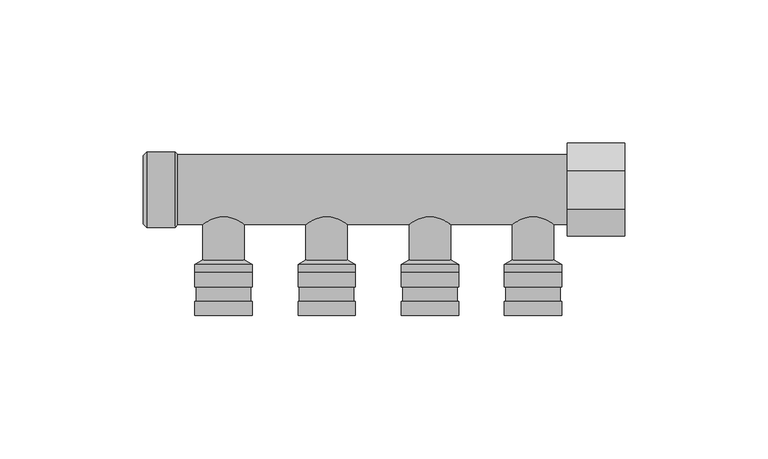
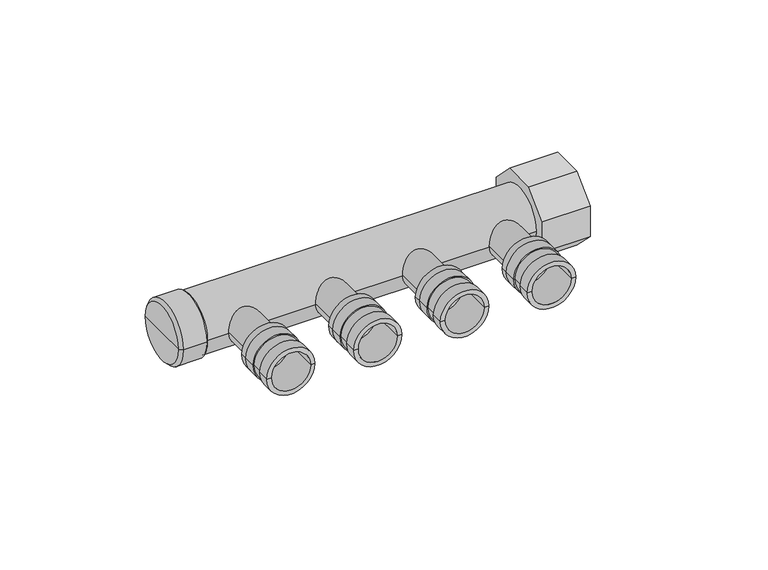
"""IFC4 building model written with IfcOpenShell, lengths in millimetres: pipe fitting geometry, Astra - Distribuidor Aberto - DSL : Astra - Distribuidor Aberto - DSL."""

from ifc_helpers import new_model, si_unit, frame, origin, place, context, project, spatial, polyline, circle_curve, source, transform, mapped, element, save
from ifc_brep_helpers import plane_surface, cylinder_surface, revolved_surface, advanced_brep


def pipe_fitting_5bf43b76(model_context):
    return source(origin(), model_context, "Body", "AdvancedBrep", [
        advanced_brep(
        [(43.85, -29.0, 0.0), (60.15, -29.0, 0.0), (62.0, -29.0, 0.0), (42.0, -29.0, 0.0), (43.85, -44.0, 0.0), (60.15, -44.0, 0.0), (42.0, -44.0, 0.0), (62.0, -44.0, 0.0), (62.0, -34.0, 0.0), (42.0, -34.0, 0.0), (42.0, -39.0, 0.0), (62.0, -39.0, 0.0), (61.5, -34.0, 0.0), (42.5, -34.0, 0.0), (61.5, -39.0, 0.0), (42.5, -39.0, 0.0)],
        [
            (0, 1, circle_curve(frame((52.0, -29.0, 0.0), z_axis=(0.0, -1.0, 0.0), x_axis=(1.0000000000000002, 0.0, 0.0)), 8.15)),
            (1, 2),
            (2, 3, circle_curve(frame((52.0, -29.0, 0.0), z_axis=(0.0, 1.0, 0.0), x_axis=(1.0000000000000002, 0.0, 0.0)), 10.0)),
            (3, 0),
            (1, 0, circle_curve(frame((52.0, -29.0, 0.0), z_axis=(0.0, -1.0, 0.0), x_axis=(1.0000000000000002, 0.0, 0.0)), 8.15)),
            (3, 2, circle_curve(frame((52.0, -29.0, 0.0), z_axis=(0.0, 1.0, 0.0), x_axis=(1.0000000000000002, 0.0, 0.0)), 10.0)),
            (0, 4),
            (4, 5, circle_curve(frame((52.0, -44.0, 0.0), z_axis=(0.0, -1.0, 0.0), x_axis=(1.0000000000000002, 0.0, 0.0)), 8.15)),
            (5, 1),
            (5, 4, circle_curve(frame((52.0, -44.0, 0.0), z_axis=(0.0, -1.0, 0.0), x_axis=(1.0000000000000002, 0.0, 0.0)), 8.15)),
            (4, 6),
            (6, 7, circle_curve(frame((52.0, -44.0, 0.0), z_axis=(0.0, -1.0, 0.0), x_axis=(1.0000000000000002, 0.0, 0.0)), 10.0)),
            (7, 5),
            (7, 6, circle_curve(frame((52.0, -44.0, 0.0), z_axis=(0.0, -1.0, 0.0), x_axis=(1.0000000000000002, 0.0, 0.0)), 10.0)),
            (2, 8),
            (8, 9, circle_curve(frame((52.0, -34.0, 0.0), z_axis=(0.0, 1.0, 0.0), x_axis=(1.0000000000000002, 0.0, 0.0)), 10.0)),
            (9, 3),
            (6, 10),
            (10, 11, circle_curve(frame((52.0, -39.0, 0.0), z_axis=(0.0, -1.0, 0.0), x_axis=(1.0000000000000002, 0.0, 0.0)), 10.0)),
            (11, 7),
            (9, 8, circle_curve(frame((52.0, -34.0, 0.0), z_axis=(0.0, 1.0, 0.0), x_axis=(1.0000000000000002, 0.0, 0.0)), 10.0)),
            (11, 10, circle_curve(frame((52.0, -39.0, 0.0), z_axis=(0.0, -1.0, 0.0), x_axis=(1.0000000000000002, 0.0, 0.0)), 10.0)),
            (12, 13, circle_curve(frame((52.0, -34.0, 0.0), z_axis=(0.0, 1.0, 0.0), x_axis=(1.0000000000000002, 0.0, 0.0)), 9.5)),
            (13, 9),
            (8, 12),
            (13, 12, circle_curve(frame((52.0, -34.0, 0.0), z_axis=(0.0, 1.0, 0.0), x_axis=(1.0000000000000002, 0.0, 0.0)), 9.5)),
            (12, 14),
            (14, 15, circle_curve(frame((52.0, -39.0, 0.0), z_axis=(0.0, 1.0, 0.0), x_axis=(1.0000000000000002, 0.0, 0.0)), 9.5)),
            (15, 13),
            (15, 14, circle_curve(frame((52.0, -39.0, 0.0), z_axis=(0.0, 1.0, 0.0), x_axis=(1.0000000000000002, 0.0, 0.0)), 9.5)),
            (14, 11),
            (10, 15),
        ],
        [
            plane_surface(frame((52.0, -29.0, 0.0), z_axis=(0.0, 1.0, 0.0), x_axis=(1.0, 0.0, 0.0))),
            revolved_surface(polyline([(60.150000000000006, -29.0, 0.0), (60.150000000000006, -44.00000000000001, 0.0)]), (52.0, -29.0, 0.0), (0.0, 1.0000000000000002, 0.0)),
            plane_surface(frame((52.0, -44.0, 0.0), z_axis=(0.0, -1.0, 0.0), x_axis=(1.0, 0.0, 0.0))),
            cylinder_surface(frame((52.0, -29.0, 0.0), z_axis=(0.0, 1.0000000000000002, 0.0), x_axis=(1.0000000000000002, 0.0, 0.0)), 10.0),
            plane_surface(frame((52.0, -34.0, 0.0), z_axis=(0.0, -1.0, 0.0), x_axis=(1.0, 0.0, 0.0))),
            cylinder_surface(frame((52.0, -29.0, 0.0), z_axis=(0.0, 1.0000000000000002, 0.0), x_axis=(1.0000000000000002, 0.0, 0.0)), 9.5),
            plane_surface(frame((52.0, -39.0, 0.0), z_axis=(0.0, 1.0, 0.0), x_axis=(1.0, 0.0, 0.0))),
        ],
        [
            (0, [[1, 2, 3, 4]]),
            (0, [[-2, 5, -4, 6]]),
            (1, [[-1, 7, 8, 9]]),
            (1, [[-5, -9, 10, -7]]),
            (2, [[-8, 11, 12, 13]]),
            (2, [[-10, -13, 14, -11]]),
            (3, [[-3, 15, 16, 17]]),
            (3, [[-12, 18, 19, 20]]),
            (3, [[-6, -17, 21, -15]]),
            (3, [[-14, -20, 22, -18]]),
            (4, [[23, 24, -16, 25]]),
            (4, [[26, -25, -21, -24]]),
            (5, [[-23, 27, 28, 29]]),
            (5, [[-26, -29, 30, -27]]),
            (6, [[-28, 31, -19, 32]]),
            (6, [[-30, -32, -22, -31]]),
        ],
    ),
        advanced_brep(
        [(7.85, -29.0, 0.0), (24.15, -29.0, 0.0), (26.0, -29.0, 0.0), (6.0, -29.0, 0.0), (7.85, -44.0, 0.0), (24.15, -44.0, 0.0), (6.0, -44.0, 0.0), (26.0, -44.0, 0.0), (26.0, -34.0, 0.0), (6.0, -34.0, 0.0), (6.0, -39.0, 0.0), (26.0, -39.0, 0.0), (25.5, -34.0, 0.0), (6.5, -34.0, 0.0), (25.5, -39.0, 0.0), (6.5, -39.0, 0.0)],
        [
            (0, 1, circle_curve(frame((16.0, -29.0, 0.0), z_axis=(0.0, -1.0, 0.0), x_axis=(1.0000000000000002, 0.0, 0.0)), 8.15)),
            (1, 2),
            (2, 3, circle_curve(frame((16.0, -29.0, 0.0), z_axis=(0.0, 1.0, 0.0), x_axis=(1.0000000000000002, 0.0, 0.0)), 10.0)),
            (3, 0),
            (1, 0, circle_curve(frame((16.0, -29.0, 0.0), z_axis=(0.0, -1.0, 0.0), x_axis=(1.0000000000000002, 0.0, 0.0)), 8.15)),
            (3, 2, circle_curve(frame((16.0, -29.0, 0.0), z_axis=(0.0, 1.0, 0.0), x_axis=(1.0000000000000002, 0.0, 0.0)), 10.0)),
            (0, 4),
            (4, 5, circle_curve(frame((16.0, -44.0, 0.0), z_axis=(0.0, -1.0, 0.0), x_axis=(1.0000000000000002, 0.0, 0.0)), 8.15)),
            (5, 1),
            (5, 4, circle_curve(frame((16.0, -44.0, 0.0), z_axis=(0.0, -1.0, 0.0), x_axis=(1.0000000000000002, 0.0, 0.0)), 8.15)),
            (4, 6),
            (6, 7, circle_curve(frame((16.0, -44.0, 0.0), z_axis=(0.0, -1.0, 0.0), x_axis=(1.0000000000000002, 0.0, 0.0)), 10.0)),
            (7, 5),
            (7, 6, circle_curve(frame((16.0, -44.0, 0.0), z_axis=(0.0, -1.0, 0.0), x_axis=(1.0000000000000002, 0.0, 0.0)), 10.0)),
            (2, 8),
            (8, 9, circle_curve(frame((16.0, -34.0, 0.0), z_axis=(0.0, 1.0, 0.0), x_axis=(1.0000000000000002, 0.0, 0.0)), 10.0)),
            (9, 3),
            (6, 10),
            (10, 11, circle_curve(frame((16.0, -39.0, 0.0), z_axis=(0.0, -1.0, 0.0), x_axis=(1.0000000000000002, 0.0, 0.0)), 10.0)),
            (11, 7),
            (9, 8, circle_curve(frame((16.0, -34.0, 0.0), z_axis=(0.0, 1.0, 0.0), x_axis=(1.0000000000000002, 0.0, 0.0)), 10.0)),
            (11, 10, circle_curve(frame((16.0, -39.0, 0.0), z_axis=(0.0, -1.0, 0.0), x_axis=(1.0000000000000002, 0.0, 0.0)), 10.0)),
            (12, 13, circle_curve(frame((16.0, -34.0, 0.0), z_axis=(0.0, 1.0, 0.0), x_axis=(1.0000000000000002, 0.0, 0.0)), 9.5)),
            (13, 9),
            (8, 12),
            (13, 12, circle_curve(frame((16.0, -34.0, 0.0), z_axis=(0.0, 1.0, 0.0), x_axis=(1.0000000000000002, 0.0, 0.0)), 9.5)),
            (12, 14),
            (14, 15, circle_curve(frame((16.0, -39.0, 0.0), z_axis=(0.0, 1.0, 0.0), x_axis=(1.0000000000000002, 0.0, 0.0)), 9.5)),
            (15, 13),
            (15, 14, circle_curve(frame((16.0, -39.0, 0.0), z_axis=(0.0, 1.0, 0.0), x_axis=(1.0000000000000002, 0.0, 0.0)), 9.5)),
            (14, 11),
            (10, 15),
        ],
        [
            plane_surface(frame((16.0, -29.0, 0.0), z_axis=(0.0, 1.0, 0.0), x_axis=(1.0, 0.0, 0.0))),
            revolved_surface(polyline([(24.150000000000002, -29.0, 0.0), (24.150000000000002, -44.00000000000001, 0.0)]), (16.0, -29.0, 0.0), (0.0, 1.0000000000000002, 0.0)),
            plane_surface(frame((16.0, -44.0, 0.0), z_axis=(0.0, -1.0, 0.0), x_axis=(1.0, 0.0, 0.0))),
            cylinder_surface(frame((16.0, -29.0, 0.0), z_axis=(0.0, 1.0000000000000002, 0.0), x_axis=(1.0000000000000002, 0.0, 0.0)), 10.0),
            plane_surface(frame((16.0, -34.0, 0.0), z_axis=(0.0, -1.0, 0.0), x_axis=(1.0, 0.0, 0.0))),
            cylinder_surface(frame((16.0, -29.0, 0.0), z_axis=(0.0, 1.0000000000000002, 0.0), x_axis=(1.0000000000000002, 0.0, 0.0)), 9.5),
            plane_surface(frame((16.0, -39.0, 0.0), z_axis=(0.0, 1.0, 0.0), x_axis=(1.0, 0.0, 0.0))),
        ],
        [
            (0, [[1, 2, 3, 4]]),
            (0, [[-2, 5, -4, 6]]),
            (1, [[-1, 7, 8, 9]]),
            (1, [[-5, -9, 10, -7]]),
            (2, [[-8, 11, 12, 13]]),
            (2, [[-10, -13, 14, -11]]),
            (3, [[-3, 15, 16, 17]]),
            (3, [[-12, 18, 19, 20]]),
            (3, [[-6, -17, 21, -15]]),
            (3, [[-14, -20, 22, -18]]),
            (4, [[23, 24, -16, 25]]),
            (4, [[26, -25, -21, -24]]),
            (5, [[-23, 27, 28, 29]]),
            (5, [[-26, -29, 30, -27]]),
            (6, [[-28, 31, -19, 32]]),
            (6, [[-30, -32, -22, -31]]),
        ],
    ),
        advanced_brep(
        [(-28.15, -29.0, 0.0), (-11.85, -29.0, 0.0), (-10.0, -29.0, 0.0), (-30.0, -29.0, 0.0), (-28.15, -44.0, 0.0), (-11.85, -44.0, 0.0), (-30.0, -44.0, 0.0), (-10.0, -44.0, 0.0), (-10.0, -34.0, 0.0), (-30.0, -34.0, 0.0), (-30.0, -39.0, 0.0), (-10.0, -39.0, 0.0), (-10.5, -34.0, 0.0), (-29.5, -34.0, 0.0), (-10.5, -39.0, 0.0), (-29.5, -39.0, 0.0)],
        [
            (0, 1, circle_curve(frame((-20.0, -29.0, 0.0), z_axis=(0.0, -1.0, 0.0), x_axis=(1.0000000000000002, 0.0, 0.0)), 8.15)),
            (1, 2),
            (2, 3, circle_curve(frame((-20.0, -29.0, 0.0), z_axis=(0.0, 1.0, 0.0), x_axis=(1.0000000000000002, 0.0, 0.0)), 10.0)),
            (3, 0),
            (1, 0, circle_curve(frame((-20.0, -29.0, 0.0), z_axis=(0.0, -1.0, 0.0), x_axis=(1.0000000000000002, 0.0, 0.0)), 8.15)),
            (3, 2, circle_curve(frame((-20.0, -29.0, 0.0), z_axis=(0.0, 1.0, 0.0), x_axis=(1.0000000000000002, 0.0, 0.0)), 10.0)),
            (0, 4),
            (4, 5, circle_curve(frame((-20.0, -44.0, 0.0), z_axis=(0.0, -1.0, 0.0), x_axis=(1.0000000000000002, 0.0, 0.0)), 8.15)),
            (5, 1),
            (5, 4, circle_curve(frame((-20.0, -44.0, 0.0), z_axis=(0.0, -1.0, 0.0), x_axis=(1.0000000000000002, 0.0, 0.0)), 8.15)),
            (4, 6),
            (6, 7, circle_curve(frame((-20.0, -44.0, 0.0), z_axis=(0.0, -1.0, 0.0), x_axis=(1.0000000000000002, 0.0, 0.0)), 10.0)),
            (7, 5),
            (7, 6, circle_curve(frame((-20.0, -44.0, 0.0), z_axis=(0.0, -1.0, 0.0), x_axis=(1.0000000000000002, 0.0, 0.0)), 10.0)),
            (2, 8),
            (8, 9, circle_curve(frame((-20.0, -34.0, 0.0), z_axis=(0.0, 1.0, 0.0), x_axis=(1.0000000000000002, 0.0, 0.0)), 10.0)),
            (9, 3),
            (6, 10),
            (10, 11, circle_curve(frame((-20.0, -39.0, 0.0), z_axis=(0.0, -1.0, 0.0), x_axis=(1.0000000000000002, 0.0, 0.0)), 10.0)),
            (11, 7),
            (9, 8, circle_curve(frame((-20.0, -34.0, 0.0), z_axis=(0.0, 1.0, 0.0), x_axis=(1.0000000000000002, 0.0, 0.0)), 10.0)),
            (11, 10, circle_curve(frame((-20.0, -39.0, 0.0), z_axis=(0.0, -1.0, 0.0), x_axis=(1.0000000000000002, 0.0, 0.0)), 10.0)),
            (12, 13, circle_curve(frame((-20.0, -34.0, 0.0), z_axis=(0.0, 1.0, 0.0), x_axis=(1.0000000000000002, 0.0, 0.0)), 9.5)),
            (13, 9),
            (8, 12),
            (13, 12, circle_curve(frame((-20.0, -34.0, 0.0), z_axis=(0.0, 1.0, 0.0), x_axis=(1.0000000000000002, 0.0, 0.0)), 9.5)),
            (12, 14),
            (14, 15, circle_curve(frame((-20.0, -39.0, 0.0), z_axis=(0.0, 1.0, 0.0), x_axis=(1.0000000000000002, 0.0, 0.0)), 9.5)),
            (15, 13),
            (15, 14, circle_curve(frame((-20.0, -39.0, 0.0), z_axis=(0.0, 1.0, 0.0), x_axis=(1.0000000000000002, 0.0, 0.0)), 9.5)),
            (14, 11),
            (10, 15),
        ],
        [
            plane_surface(frame((-20.0, -29.0, 0.0), z_axis=(0.0, 1.0, 0.0), x_axis=(1.0, 0.0, 0.0))),
            revolved_surface(polyline([(-11.849999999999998, -29.0, 0.0), (-11.849999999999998, -44.00000000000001, 0.0)]), (-20.0, -29.0, 0.0), (0.0, 1.0000000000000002, 0.0)),
            plane_surface(frame((-20.0, -44.0, 0.0), z_axis=(0.0, -1.0, 0.0), x_axis=(1.0, 0.0, 0.0))),
            cylinder_surface(frame((-20.0, -29.0, 0.0), z_axis=(0.0, 1.0000000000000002, 0.0), x_axis=(1.0000000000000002, 0.0, 0.0)), 10.0),
            plane_surface(frame((-20.0, -34.0, 0.0), z_axis=(0.0, -1.0, 0.0), x_axis=(1.0, 0.0, 0.0))),
            cylinder_surface(frame((-20.0, -29.0, 0.0), z_axis=(0.0, 1.0000000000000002, 0.0), x_axis=(1.0000000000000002, 0.0, 0.0)), 9.5),
            plane_surface(frame((-20.0, -39.0, 0.0), z_axis=(0.0, 1.0, 0.0), x_axis=(1.0, 0.0, 0.0))),
        ],
        [
            (0, [[1, 2, 3, 4]]),
            (0, [[-2, 5, -4, 6]]),
            (1, [[-1, 7, 8, 9]]),
            (1, [[-5, -9, 10, -7]]),
            (2, [[-8, 11, 12, 13]]),
            (2, [[-10, -13, 14, -11]]),
            (3, [[-3, 15, 16, 17]]),
            (3, [[-12, 18, 19, 20]]),
            (3, [[-6, -17, 21, -15]]),
            (3, [[-14, -20, 22, -18]]),
            (4, [[23, 24, -16, 25]]),
            (4, [[26, -25, -21, -24]]),
            (5, [[-23, 27, 28, 29]]),
            (5, [[-26, -29, 30, -27]]),
            (6, [[-28, 31, -19, 32]]),
            (6, [[-30, -32, -22, -31]]),
        ],
    ),
        advanced_brep(
        [(-64.15, -29.0, 0.0), (-47.85, -29.0, 0.0), (-46.0, -29.0, 0.0), (-66.0, -29.0, 0.0), (-64.15, -44.0, 0.0), (-47.85, -44.0, 0.0), (-66.0, -44.0, 0.0), (-46.0, -44.0, 0.0), (-46.0, -34.0, 0.0), (-66.0, -34.0, 0.0), (-66.0, -39.0, 0.0), (-46.0, -39.0, 0.0), (-46.5, -34.0, 0.0), (-65.5, -34.0, 0.0), (-46.5, -39.0, 0.0), (-65.5, -39.0, 0.0)],
        [
            (0, 1, circle_curve(frame((-56.0, -29.0, 0.0), z_axis=(0.0, -1.0, 0.0), x_axis=(1.0000000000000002, 0.0, 0.0)), 8.15)),
            (1, 2),
            (2, 3, circle_curve(frame((-56.0, -29.0, 0.0), z_axis=(0.0, 1.0, 0.0), x_axis=(1.0000000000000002, 0.0, 0.0)), 10.0)),
            (3, 0),
            (1, 0, circle_curve(frame((-56.0, -29.0, 0.0), z_axis=(0.0, -1.0, 0.0), x_axis=(1.0000000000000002, 0.0, 0.0)), 8.15)),
            (3, 2, circle_curve(frame((-56.0, -29.0, 0.0), z_axis=(0.0, 1.0, 0.0), x_axis=(1.0000000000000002, 0.0, 0.0)), 10.0)),
            (0, 4),
            (4, 5, circle_curve(frame((-56.0, -44.0, 0.0), z_axis=(0.0, -1.0, 0.0), x_axis=(1.0000000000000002, 0.0, 0.0)), 8.15)),
            (5, 1),
            (5, 4, circle_curve(frame((-56.0, -44.0, 0.0), z_axis=(0.0, -1.0, 0.0), x_axis=(1.0000000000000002, 0.0, 0.0)), 8.15)),
            (4, 6),
            (6, 7, circle_curve(frame((-56.0, -44.0, 0.0), z_axis=(0.0, -1.0, 0.0), x_axis=(1.0000000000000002, 0.0, 0.0)), 10.0)),
            (7, 5),
            (7, 6, circle_curve(frame((-56.0, -44.0, 0.0), z_axis=(0.0, -1.0, 0.0), x_axis=(1.0000000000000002, 0.0, 0.0)), 10.0)),
            (2, 8),
            (8, 9, circle_curve(frame((-56.0, -34.0, 0.0), z_axis=(0.0, 1.0, 0.0), x_axis=(1.0000000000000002, 0.0, 0.0)), 10.0)),
            (9, 3),
            (6, 10),
            (10, 11, circle_curve(frame((-56.0, -39.0, 0.0), z_axis=(0.0, -1.0, 0.0), x_axis=(1.0000000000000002, 0.0, 0.0)), 10.0)),
            (11, 7),
            (9, 8, circle_curve(frame((-56.0, -34.0, 0.0), z_axis=(0.0, 1.0, 0.0), x_axis=(1.0000000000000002, 0.0, 0.0)), 10.0)),
            (11, 10, circle_curve(frame((-56.0, -39.0, 0.0), z_axis=(0.0, -1.0, 0.0), x_axis=(1.0000000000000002, 0.0, 0.0)), 10.0)),
            (12, 13, circle_curve(frame((-56.0, -34.0, 0.0), z_axis=(0.0, 1.0, 0.0), x_axis=(1.0000000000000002, 0.0, 0.0)), 9.5)),
            (13, 9),
            (8, 12),
            (13, 12, circle_curve(frame((-56.0, -34.0, 0.0), z_axis=(0.0, 1.0, 0.0), x_axis=(1.0000000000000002, 0.0, 0.0)), 9.5)),
            (12, 14),
            (14, 15, circle_curve(frame((-56.0, -39.0, 0.0), z_axis=(0.0, 1.0, 0.0), x_axis=(1.0000000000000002, 0.0, 0.0)), 9.5)),
            (15, 13),
            (15, 14, circle_curve(frame((-56.0, -39.0, 0.0), z_axis=(0.0, 1.0, 0.0), x_axis=(1.0000000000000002, 0.0, 0.0)), 9.5)),
            (14, 11),
            (10, 15),
        ],
        [
            plane_surface(frame((-56.0, -29.0, 0.0), z_axis=(0.0, 1.0, 0.0), x_axis=(1.0, 0.0, 0.0))),
            revolved_surface(polyline([(-47.849999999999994, -29.0, 0.0), (-47.849999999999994, -44.00000000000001, 0.0)]), (-56.0, -29.0, 0.0), (0.0, 1.0000000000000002, 0.0)),
            plane_surface(frame((-56.0, -44.0, 0.0), z_axis=(0.0, -1.0, 0.0), x_axis=(1.0, 0.0, 0.0))),
            cylinder_surface(frame((-56.0, -29.0, 0.0), z_axis=(0.0, 1.0000000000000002, 0.0), x_axis=(1.0000000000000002, 0.0, 0.0)), 10.0),
            plane_surface(frame((-56.0, -34.0, 0.0), z_axis=(0.0, -1.0, 0.0), x_axis=(1.0, 0.0, 0.0))),
            cylinder_surface(frame((-56.0, -29.0, 0.0), z_axis=(0.0, 1.0000000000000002, 0.0), x_axis=(1.0000000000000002, 0.0, 0.0)), 9.5),
            plane_surface(frame((-56.0, -39.0, 0.0), z_axis=(0.0, 1.0, 0.0), x_axis=(1.0, 0.0, 0.0))),
        ],
        [
            (0, [[1, 2, 3, 4]]),
            (0, [[-2, 5, -4, 6]]),
            (1, [[-1, 7, 8, 9]]),
            (1, [[-5, -9, 10, -7]]),
            (2, [[-8, 11, 12, 13]]),
            (2, [[-10, -13, 14, -11]]),
            (3, [[-3, 15, 16, 17]]),
            (3, [[-12, 18, 19, 20]]),
            (3, [[-6, -17, 21, -15]]),
            (3, [[-14, -20, 22, -18]]),
            (4, [[23, 24, -16, 25]]),
            (4, [[26, -25, -21, -24]]),
            (5, [[-23, 27, 28, 29]]),
            (5, [[-26, -29, 30, -27]]),
            (6, [[-28, 31, -19, 32]]),
            (6, [[-30, -32, -22, -31]]),
        ],
    ),
        advanced_brep(
        [(44.75, 0.0, 0.0), (59.25, 0.0, 0.0), (59.25, -24.5, 0.0), (44.75, -24.5, 0.0), (52.0, 0.0, 0.0), (42.0, -29.0, 0.0), (62.0, -29.0, 0.0), (52.0, -29.0, 0.0), (42.0, -26.0877132, 0.0), (62.0, -26.0877132, 0.0)],
        [
            (0, 1, circle_curve(frame((52.0, 0.0, 0.0), z_axis=(0.0, -1.0, 0.0), x_axis=(1.0, 0.0, 0.0)), 7.25)),
            (1, 2),
            (2, 3, circle_curve(frame((52.0, -24.5, 0.0), z_axis=(0.0, 1.0, 0.0), x_axis=(1.0, 0.0, 0.0)), 7.25)),
            (3, 0),
            (1, 0, circle_curve(frame((52.0, 0.0, 0.0), z_axis=(0.0, -1.0, 0.0), x_axis=(1.0, 0.0, 0.0)), 7.25)),
            (3, 2, circle_curve(frame((52.0, -24.5, 0.0), z_axis=(0.0, 1.0, 0.0), x_axis=(1.0, 0.0, 0.0)), 7.25)),
            (4, 1),
            (0, 4),
            (5, 6, circle_curve(frame((52.0, -29.0, 0.0), z_axis=(0.0, -1.0, 0.0), x_axis=(1.0, 0.0, 0.0)), 10.0)),
            (6, 7),
            (7, 5),
            (6, 5, circle_curve(frame((52.0, -29.0, 0.0), z_axis=(0.0, -1.0, 0.0), x_axis=(1.0, 0.0, 0.0)), 10.0)),
            (8, 9, circle_curve(frame((52.0, -26.0877132, 0.0), z_axis=(0.0, -1.0, 0.0), x_axis=(1.0, 0.0, 0.0)), 10.0)),
            (9, 6),
            (5, 8),
            (9, 8, circle_curve(frame((52.0, -26.0877132, 0.0), z_axis=(0.0, -1.0, 0.0), x_axis=(1.0, 0.0, 0.0)), 10.0)),
            (2, 9),
            (8, 3),
        ],
        [
            cylinder_surface(frame((52.0, 0.0, 0.0), z_axis=(0.0, 1.0, 0.0), x_axis=(1.0, 0.0, 0.0)), 7.25),
            plane_surface(frame((52.0, 0.0, 0.0), z_axis=(0.0, 1.0, 0.0), x_axis=(1.0, 0.0, 0.0))),
            plane_surface(frame((52.0, -29.0, 0.0), z_axis=(0.0, -1.0, 0.0), x_axis=(1.0, 0.0, 0.0))),
            cylinder_surface(frame((52.0, 0.0, 0.0), z_axis=(0.0, 1.0, 0.0), x_axis=(1.0, 0.0, 0.0)), 10.0),
            revolved_surface(polyline([(62.0, -26.0877132, 0.0), (59.25, -24.5, 0.0)]), (52.0, 0.0, 0.0), (0.0, 1.0, 0.0)),
        ],
        [
            (0, [[1, 2, 3, 4]]),
            (0, [[5, -4, 6, -2]]),
            (1, [[7, -1, 8]]),
            (1, [[-8, -5, -7]]),
            (2, [[9, 10, 11]]),
            (2, [[12, -11, -10]]),
            (3, [[13, 14, -9, 15]]),
            (3, [[16, -15, -12, -14]]),
            (4, [[-3, 17, -13, 18]]),
            (4, [[-6, -18, -16, -17]]),
        ],
    ),
        advanced_brep(
        [(8.75, 0.0, 0.0), (23.25, 0.0, 0.0), (23.25, -24.5, 0.0), (8.75, -24.5, 0.0), (16.0, 0.0, 0.0), (6.0, -29.0, 0.0), (26.0, -29.0, 0.0), (16.0, -29.0, 0.0), (6.0, -26.0877132, 0.0), (26.0, -26.0877132, 0.0)],
        [
            (0, 1, circle_curve(frame((16.0, 0.0, 0.0), z_axis=(0.0, -1.0, 0.0), x_axis=(1.0, 0.0, 0.0)), 7.25)),
            (1, 2),
            (2, 3, circle_curve(frame((16.0, -24.5, 0.0), z_axis=(0.0, 1.0, 0.0), x_axis=(1.0, 0.0, 0.0)), 7.25)),
            (3, 0),
            (1, 0, circle_curve(frame((16.0, 0.0, 0.0), z_axis=(0.0, -1.0, 0.0), x_axis=(1.0, 0.0, 0.0)), 7.25)),
            (3, 2, circle_curve(frame((16.0, -24.5, 0.0), z_axis=(0.0, 1.0, 0.0), x_axis=(1.0, 0.0, 0.0)), 7.25)),
            (4, 1),
            (0, 4),
            (5, 6, circle_curve(frame((16.0, -29.0, 0.0), z_axis=(0.0, -1.0, 0.0), x_axis=(1.0, 0.0, 0.0)), 10.0)),
            (6, 7),
            (7, 5),
            (6, 5, circle_curve(frame((16.0, -29.0, 0.0), z_axis=(0.0, -1.0, 0.0), x_axis=(1.0, 0.0, 0.0)), 10.0)),
            (8, 9, circle_curve(frame((16.0, -26.0877132, 0.0), z_axis=(0.0, -1.0, 0.0), x_axis=(1.0, 0.0, 0.0)), 10.0)),
            (9, 6),
            (5, 8),
            (9, 8, circle_curve(frame((16.0, -26.0877132, 0.0), z_axis=(0.0, -1.0, 0.0), x_axis=(1.0, 0.0, 0.0)), 10.0)),
            (2, 9),
            (8, 3),
        ],
        [
            cylinder_surface(frame((16.0, 0.0, 0.0), z_axis=(0.0, 1.0, 0.0), x_axis=(1.0, 0.0, 0.0)), 7.25),
            plane_surface(frame((16.0, 0.0, 0.0), z_axis=(0.0, 1.0, 0.0), x_axis=(1.0, 0.0, 0.0))),
            plane_surface(frame((16.0, -29.0, 0.0), z_axis=(0.0, -1.0, 0.0), x_axis=(1.0, 0.0, 0.0))),
            cylinder_surface(frame((16.0, 0.0, 0.0), z_axis=(0.0, 1.0, 0.0), x_axis=(1.0, 0.0, 0.0)), 10.0),
            revolved_surface(polyline([(26.0, -26.0877132, 0.0), (23.25, -24.5, 0.0)]), (16.0, 0.0, 0.0), (0.0, 1.0, 0.0)),
        ],
        [
            (0, [[1, 2, 3, 4]]),
            (0, [[5, -4, 6, -2]]),
            (1, [[7, -1, 8]]),
            (1, [[-8, -5, -7]]),
            (2, [[9, 10, 11]]),
            (2, [[12, -11, -10]]),
            (3, [[13, 14, -9, 15]]),
            (3, [[16, -15, -12, -14]]),
            (4, [[-3, 17, -13, 18]]),
            (4, [[-6, -18, -16, -17]]),
        ],
    ),
        advanced_brep(
        [(-27.25, 0.0, 0.0), (-12.75, 0.0, 0.0), (-12.75, -24.5, 0.0), (-27.25, -24.5, 0.0), (-20.0, 0.0, 0.0), (-30.0, -29.0, 0.0), (-10.0, -29.0, 0.0), (-20.0, -29.0, 0.0), (-30.0, -26.0877132, 0.0), (-10.0, -26.0877132, 0.0)],
        [
            (0, 1, circle_curve(frame((-20.0, 0.0, 0.0), z_axis=(0.0, -1.0, 0.0), x_axis=(1.0, 0.0, 0.0)), 7.25)),
            (1, 2),
            (2, 3, circle_curve(frame((-20.0, -24.5, 0.0), z_axis=(0.0, 1.0, 0.0), x_axis=(1.0, 0.0, 0.0)), 7.25)),
            (3, 0),
            (1, 0, circle_curve(frame((-20.0, 0.0, 0.0), z_axis=(0.0, -1.0, 0.0), x_axis=(1.0, 0.0, 0.0)), 7.25)),
            (3, 2, circle_curve(frame((-20.0, -24.5, 0.0), z_axis=(0.0, 1.0, 0.0), x_axis=(1.0, 0.0, 0.0)), 7.25)),
            (4, 1),
            (0, 4),
            (5, 6, circle_curve(frame((-20.0, -29.0, 0.0), z_axis=(0.0, -1.0, 0.0), x_axis=(1.0, 0.0, 0.0)), 10.0)),
            (6, 7),
            (7, 5),
            (6, 5, circle_curve(frame((-20.0, -29.0, 0.0), z_axis=(0.0, -1.0, 0.0), x_axis=(1.0, 0.0, 0.0)), 10.0)),
            (8, 9, circle_curve(frame((-20.0, -26.0877132, 0.0), z_axis=(0.0, -1.0, 0.0), x_axis=(1.0, 0.0, 0.0)), 10.0)),
            (9, 6),
            (5, 8),
            (9, 8, circle_curve(frame((-20.0, -26.0877132, 0.0), z_axis=(0.0, -1.0, 0.0), x_axis=(1.0, 0.0, 0.0)), 10.0)),
            (2, 9),
            (8, 3),
        ],
        [
            cylinder_surface(frame((-20.0, 0.0, 0.0), z_axis=(0.0, 1.0, 0.0), x_axis=(1.0, 0.0, 0.0)), 7.25),
            plane_surface(frame((-20.0, 0.0, 0.0), z_axis=(0.0, 1.0, 0.0), x_axis=(1.0, 0.0, 0.0))),
            plane_surface(frame((-20.0, -29.0, 0.0), z_axis=(0.0, -1.0, 0.0), x_axis=(1.0, 0.0, 0.0))),
            cylinder_surface(frame((-20.0, 0.0, 0.0), z_axis=(0.0, 1.0, 0.0), x_axis=(1.0, 0.0, 0.0)), 10.0),
            revolved_surface(polyline([(-10.0, -26.0877132, 0.0), (-12.75, -24.5, 0.0)]), (-20.0, 0.0, 0.0), (0.0, 1.0, 0.0)),
        ],
        [
            (0, [[1, 2, 3, 4]]),
            (0, [[5, -4, 6, -2]]),
            (1, [[7, -1, 8]]),
            (1, [[-8, -5, -7]]),
            (2, [[9, 10, 11]]),
            (2, [[12, -11, -10]]),
            (3, [[13, 14, -9, 15]]),
            (3, [[16, -15, -12, -14]]),
            (4, [[-3, 17, -13, 18]]),
            (4, [[-6, -18, -16, -17]]),
        ],
    ),
        advanced_brep(
        [(-63.25, 0.0, 0.0), (-48.75, 0.0, 0.0), (-48.75, -24.5, 0.0), (-63.25, -24.5, 0.0), (-56.0, 0.0, 0.0), (-66.0, -29.0, 0.0), (-46.0, -29.0, 0.0), (-56.0, -29.0, 0.0), (-66.0, -26.0877132, 0.0), (-46.0, -26.0877132, 0.0)],
        [
            (0, 1, circle_curve(frame((-56.0, 0.0, 0.0), z_axis=(0.0, -1.0, 0.0), x_axis=(1.0, 0.0, 0.0)), 7.25)),
            (1, 2),
            (2, 3, circle_curve(frame((-56.0, -24.5, 0.0), z_axis=(0.0, 1.0, 0.0), x_axis=(1.0, 0.0, 0.0)), 7.25)),
            (3, 0),
            (1, 0, circle_curve(frame((-56.0, 0.0, 0.0), z_axis=(0.0, -1.0, 0.0), x_axis=(1.0, 0.0, 0.0)), 7.25)),
            (3, 2, circle_curve(frame((-56.0, -24.5, 0.0), z_axis=(0.0, 1.0, 0.0), x_axis=(1.0, 0.0, 0.0)), 7.25)),
            (4, 1),
            (0, 4),
            (5, 6, circle_curve(frame((-56.0, -29.0, 0.0), z_axis=(0.0, -1.0, 0.0), x_axis=(1.0, 0.0, 0.0)), 10.0)),
            (6, 7),
            (7, 5),
            (6, 5, circle_curve(frame((-56.0, -29.0, 0.0), z_axis=(0.0, -1.0, 0.0), x_axis=(1.0, 0.0, 0.0)), 10.0)),
            (8, 9, circle_curve(frame((-56.0, -26.0877132, 0.0), z_axis=(0.0, -1.0, 0.0), x_axis=(1.0, 0.0, 0.0)), 10.0)),
            (9, 6),
            (5, 8),
            (9, 8, circle_curve(frame((-56.0, -26.0877132, 0.0), z_axis=(0.0, -1.0, 0.0), x_axis=(1.0, 0.0, 0.0)), 10.0)),
            (2, 9),
            (8, 3),
        ],
        [
            cylinder_surface(frame((-56.0, 0.0, 0.0), z_axis=(0.0, 1.0, 0.0), x_axis=(1.0, 0.0, 0.0)), 7.25),
            plane_surface(frame((-56.0, 0.0, 0.0), z_axis=(0.0, 1.0, 0.0), x_axis=(1.0, 0.0, 0.0))),
            plane_surface(frame((-56.0, -29.0, 0.0), z_axis=(0.0, -1.0, 0.0), x_axis=(1.0, 0.0, 0.0))),
            cylinder_surface(frame((-56.0, 0.0, 0.0), z_axis=(0.0, 1.0, 0.0), x_axis=(1.0, 0.0, 0.0)), 10.0),
            revolved_surface(polyline([(-46.0, -26.0877132, 0.0), (-48.75, -24.5, 0.0)]), (-56.0, 0.0, 0.0), (0.0, 1.0, 0.0)),
        ],
        [
            (0, [[1, 2, 3, 4]]),
            (0, [[5, -4, 6, -2]]),
            (1, [[7, -1, 8]]),
            (1, [[-8, -5, -7]]),
            (2, [[9, 10, 11]]),
            (2, [[12, -11, -10]]),
            (3, [[13, 14, -9, 15]]),
            (3, [[16, -15, -12, -14]]),
            (4, [[-3, 17, -13, 18]]),
            (4, [[-6, -18, -16, -17]]),
        ],
    ),
        advanced_brep(
        [(-72.0, 12.25, 0.0), (64.0, 12.25, 0.0), (64.0, -12.25, 0.0), (-72.0, -12.25, 0.0), (-72.0, -8.6620581, -8.6620581), (-72.0, 0.0, -12.25), (-72.0, 8.6620581, -8.6620581), (-72.0, 8.6620581, 8.6620581), (-72.0, 0.0, 12.25), (-72.0, -8.6620581, 8.6620581), (-84.0, -11.95, 0.0), (-84.0, 11.95, 0.0), (-82.8, 13.15, 0.0), (-82.8, -13.15, 0.0), (-84.0, 0.0, 0.0), (-72.9, -13.15, 0.0), (-72.9, 13.15, 0.0), (84.0, -16.25, 6.7309704), (84.0, -16.25, -6.7309704), (84.0, -6.7309704, -16.25), (84.0, 6.7309704, -16.25), (84.0, 16.25, -6.7309704), (84.0, 16.25, 6.7309704), (84.0, 6.7309704, 16.25), (84.0, -6.7309704, 16.25), (84.0, 12.25, 0.0), (84.0, -12.25, 0.0), (64.0, -16.25, 6.7309704), (64.0, -6.7309704, 16.25), (64.0, 6.7309704, 16.25), (64.0, 16.25, 6.7309704), (64.0, 16.25, -6.7309704), (64.0, 6.7309704, -16.25), (64.0, -6.7309704, -16.25), (64.0, -16.25, -6.7309704), (74.0, 0.0, 0.0), (74.0, -12.25, 0.0), (74.0, 12.25, 0.0)],
        [
            (0, 1),
            (1, 2, circle_curve(frame((64.0, 0.0, 0.0), z_axis=(-1.0, 0.0, 0.0), x_axis=(0.0, 1.0, 0.0)), 12.25)),
            (2, 3),
            (3, 4, circle_curve(frame((-72.0, 0.0, 0.0), z_axis=(1.0, 0.0, 0.0), x_axis=(0.0, 1.0, 0.0)), 12.25)),
            (4, 5, circle_curve(frame((-72.0, 0.0, 0.0), z_axis=(1.0, 0.0, 0.0), x_axis=(0.0, 1.0, 0.0)), 12.25)),
            (5, 6, circle_curve(frame((-72.0, 0.0, 0.0), z_axis=(1.0, 0.0, 0.0), x_axis=(0.0, 1.0, 0.0)), 12.25)),
            (6, 0, circle_curve(frame((-72.0, 0.0, 0.0), z_axis=(1.0, 0.0, 0.0), x_axis=(0.0, 1.0, 0.0)), 12.25)),
            (0, 7, circle_curve(frame((-72.0, 0.0, 0.0), z_axis=(1.0, 0.0, 0.0), x_axis=(0.0, 1.0, 0.0)), 12.25)),
            (7, 8, circle_curve(frame((-72.0, 0.0, 0.0), z_axis=(1.0, 0.0, 0.0), x_axis=(0.0, 1.0, 0.0)), 12.25)),
            (8, 9, circle_curve(frame((-72.0, 0.0, 0.0), z_axis=(1.0, 0.0, 0.0), x_axis=(0.0, 1.0, 0.0)), 12.25)),
            (9, 3, circle_curve(frame((-72.0, 0.0, 0.0), z_axis=(1.0, 0.0, 0.0), x_axis=(0.0, 1.0, 0.0)), 12.25)),
            (2, 1, circle_curve(frame((64.0, 0.0, 0.0), z_axis=(-1.0, 0.0, 0.0), x_axis=(0.0, 1.0, 0.0)), 12.25)),
            (10, 11, circle_curve(frame((-84.0, 0.0, 0.0), z_axis=(1.0, 0.0, 0.0), x_axis=(0.0, 1.0, 0.0)), 11.95)),
            (11, 12),
            (12, 13, circle_curve(frame((-82.8, 0.0, 0.0), z_axis=(-1.0, 0.0, 0.0), x_axis=(0.0, 1.0, 0.0)), 13.15)),
            (13, 10),
            (11, 10, circle_curve(frame((-84.0, 0.0, 0.0), z_axis=(1.0, 0.0, 0.0), x_axis=(0.0, 1.0, 0.0)), 11.95)),
            (13, 12, circle_curve(frame((-82.8, 0.0, 0.0), z_axis=(-1.0, 0.0, 0.0), x_axis=(0.0, 1.0, 0.0)), 13.15)),
            (10, 14),
            (14, 11),
            (15, 16, circle_curve(frame((-72.9, 0.0, 0.0), z_axis=(1.0, 0.0, 0.0), x_axis=(0.0, 1.0, 0.0)), 13.15)),
            (16, 0),
            (3, 15),
            (16, 15, circle_curve(frame((-72.9, 0.0, 0.0), z_axis=(1.0, 0.0, 0.0), x_axis=(0.0, 1.0, 0.0)), 13.15)),
            (12, 16),
            (15, 13),
            (17, 18),
            (18, 19),
            (19, 20),
            (20, 21),
            (21, 22),
            (22, 23),
            (23, 24),
            (24, 17),
            (25, 26, circle_curve(frame((84.0, 0.0, 0.0), z_axis=(-1.0, 0.0, 0.0), x_axis=(0.0, 1.0, 0.0)), 12.25)),
            (26, 25, circle_curve(frame((84.0, 0.0, 0.0), z_axis=(-1.0, 0.0, 0.0), x_axis=(0.0, 1.0, 0.0)), 12.25)),
            (27, 28),
            (28, 29),
            (29, 30),
            (30, 31),
            (31, 32),
            (32, 33),
            (33, 34),
            (34, 27),
            (17, 27),
            (34, 18),
            (33, 19),
            (32, 20),
            (31, 21),
            (30, 22),
            (29, 23),
            (28, 24),
            (35, 36),
            (36, 37, circle_curve(frame((74.0, 0.0, 0.0), z_axis=(1.0, 0.0, 0.0), x_axis=(0.0, 1.0, 0.0)), 12.25)),
            (37, 35),
            (37, 36, circle_curve(frame((74.0, 0.0, 0.0), z_axis=(1.0, 0.0, 0.0), x_axis=(0.0, 1.0, 0.0)), 12.25)),
            (36, 26),
            (25, 37),
        ],
        [
            cylinder_surface(frame((-72.0, 0.0, 0.0), z_axis=(-1.0, 0.0, 0.0), x_axis=(0.0, 1.0, 0.0)), 12.25),
            revolved_surface(polyline([(-82.8, 13.15, 0.0), (-84.0, 11.95, 0.0)]), (-84.0, 0.0, 0.0), (-1.0, 0.0, 0.0)),
            plane_surface(frame((-84.0, 0.0, 0.0), z_axis=(-1.0, 0.0, 0.0), x_axis=(0.0, 1.0, 0.0))),
            revolved_surface(polyline([(-72.0, 12.25, 0.0), (-72.9, 13.15, 0.0)]), (-84.0, 0.0, 0.0), (-1.0, 0.0, 0.0)),
            cylinder_surface(frame((-84.0, 0.0, 0.0), z_axis=(-1.0, 0.0, 0.0), x_axis=(0.0, 1.0, 0.0)), 13.15),
            plane_surface(frame((84.0, -16.25, 6.7309704), z_axis=(1.0, 0.0, 0.0), x_axis=(0.0, 0.0, -1.0))),
            plane_surface(frame((64.0, -16.25, 6.7309704), z_axis=(-1.0, 0.0, 0.0), x_axis=(0.0, 0.0, 1.0))),
            plane_surface(frame((84.0, -16.25, 6.7309704), z_axis=(0.0, -1.0, 0.0), x_axis=(-1.0, 0.0, 0.0))),
            plane_surface(frame((84.0, -16.25, -6.7309704), z_axis=(0.0, -0.7071067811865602, -0.7071067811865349), x_axis=(-1.0, 0.0, 0.0))),
            plane_surface(frame((84.0, -6.7309704, -16.25), z_axis=(0.0, 0.0, -1.0), x_axis=(-1.0, 0.0, 0.0))),
            plane_surface(frame((84.0, 6.7309704, -16.25), z_axis=(0.0, 0.7071067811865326, -0.7071067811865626), x_axis=(-1.0, 0.0, 0.0))),
            plane_surface(frame((84.0, 16.25, -6.7309704), z_axis=(0.0, 1.0, 0.0), x_axis=(-1.0, 0.0, 0.0))),
            plane_surface(frame((84.0, 16.25, 6.7309704), z_axis=(0.0, 0.7071067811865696, 0.7071067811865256), x_axis=(-1.0, 0.0, 0.0))),
            plane_surface(frame((84.0, 6.7309704, 16.25), z_axis=(0.0, 0.0, 1.0), x_axis=(-1.0, 0.0, 0.0))),
            plane_surface(frame((84.0, -6.7309704, 16.25), z_axis=(0.0, -0.7071067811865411, 0.707106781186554), x_axis=(-1.0, 0.0, 0.0))),
            plane_surface(frame((74.0, 0.0, 0.0), z_axis=(1.0, 0.0, 0.0), x_axis=(0.0, 1.0, 0.0))),
            revolved_surface(polyline([(74.0, 12.25, 0.0), (84.0, 12.25, 0.0)]), (74.0, 0.0, 0.0), (-1.0, 0.0, 0.0)),
        ],
        [
            (0, [[1, 2, 3, 4, 5, 6, 7]]),
            (0, [[-1, 8, 9, 10, 11, -3, 12]]),
            (1, [[13, 14, 15, 16]]),
            (1, [[-14, 17, -16, 18]]),
            (2, [[-13, 19, 20]]),
            (2, [[-17, -20, -19]]),
            (3, [[21, 22, -7, -6, -5, -4, 23]]),
            (3, [[-22, 24, -23, -11, -10, -9, -8]]),
            (4, [[-15, 25, -21, 26]]),
            (4, [[-18, -26, -24, -25]]),
            (5, [[27, 28, 29, 30, 31, 32, 33, 34], [35, 36]]),
            (6, [[37, 38, 39, 40, 41, 42, 43, 44], [-2, -12]]),
            (7, [[-27, 45, -44, 46]]),
            (8, [[-28, -46, -43, 47]]),
            (9, [[-29, -47, -42, 48]]),
            (10, [[-30, -48, -41, 49]]),
            (11, [[-31, -49, -40, 50]]),
            (12, [[-32, -50, -39, 51]]),
            (13, [[-33, -51, -38, 52]]),
            (14, [[-34, -52, -37, -45]]),
            (15, [[53, 54, 55]]),
            (15, [[-53, -55, 56]]),
            (16, [[-54, 57, -35, 58]]),
            (16, [[-56, -58, -36, -57]]),
        ],
    ),
    ])


if __name__ == "__main__":
    model = new_model("IFC4")
    model_context = context("Model", 3, world=origin())
    ifc_project = project(units=[si_unit("LENGTHUNIT", "METRE", prefix="MILLI")], contexts=[model_context])
    site = spatial("IfcSite", under=ifc_project)
    building = spatial("IfcBuilding", under=site)
    placement = place(None, origin())
    pipe_fitting_shape = pipe_fitting_5bf43b76(model_context)
    element("IfcPipeFitting", 1, ObjectType="Astra - Distribuidor Aberto - DSL : Astra - Distribuidor Aberto - DSL", at=placement, inside=building, context=model_context, shape_type="MappedRepresentation", body=[
        mapped(pipe_fitting_shape, transform((0.0, 0.0, 0.0), x_axis=(1.0, 0.0, 0.0), y_axis=(0.0, 1.0, 0.0), z_axis=(0.0, 0.0, 1.0))),
    ])
    save(model, "model.ifc")
